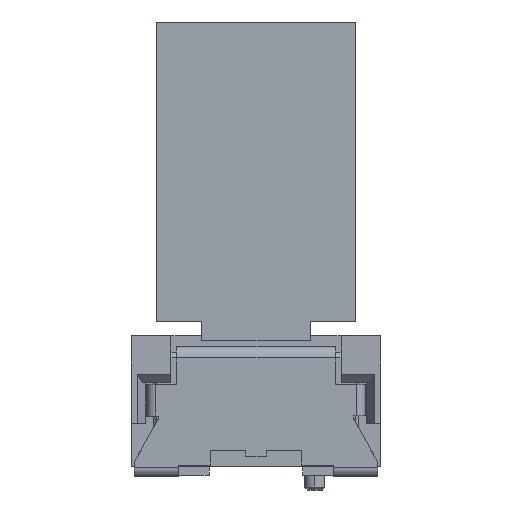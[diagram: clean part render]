
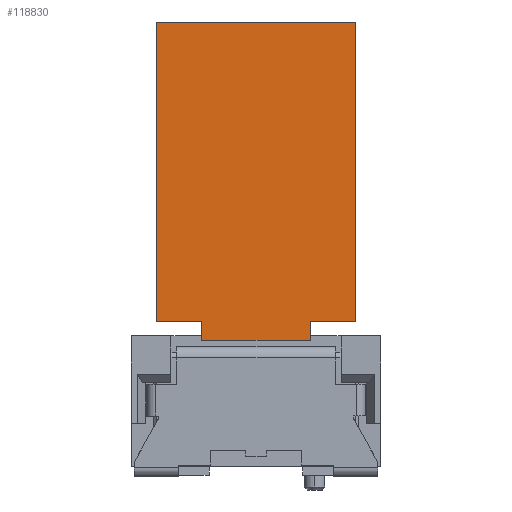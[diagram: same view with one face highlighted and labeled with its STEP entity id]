
A CAD part, left-side view. The second image highlights one B-rep face of the part: STEP entity #118830.
In plain terms, the highlighted planar face has unit normal (-1, 0, 0).
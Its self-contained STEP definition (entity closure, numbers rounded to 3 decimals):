
#41360=CARTESIAN_POINT('',(-11.054,29.1,13.848));
#41370=DIRECTION('',(0.,0.,1.));
#41380=VECTOR('',#41370,1.);
#41390=LINE('',#41360,#41380);
#41400=CARTESIAN_POINT('',(-11.054,29.1,12.9));
#41410=VERTEX_POINT('',#41400);
#41420=CARTESIAN_POINT('',(-11.054,29.1,13.55));
#41430=VERTEX_POINT('',#41420);
#41440=EDGE_CURVE('',#41410,#41430,#41390,.T.);
#41830=CARTESIAN_POINT('',(-11.054,30.22,12.9));
#41840=DIRECTION('',(0.,-1.,0.));
#41850=VECTOR('',#41840,1.);
#41860=LINE('',#41830,#41850);
#41870=CARTESIAN_POINT('',(-11.054,25.4,12.9));
#41880=VERTEX_POINT('',#41870);
#41890=EDGE_CURVE('',#41410,#41880,#41860,.T.);
#118280=CARTESIAN_POINT('',(-11.054,23.85,23.75));
#118290=DIRECTION('',(-1.,0.,0.));
#118300=DIRECTION('',(0.,0.,1.));
#118310=AXIS2_PLACEMENT_3D('',#118280,#118290,#118300);
#118320=PLANE('',#118310);
#118330=ORIENTED_EDGE('',*,*,#41890,.T.);
#118340=ORIENTED_EDGE('',*,*,#41440,.F.);
#118350=CARTESIAN_POINT('',(-11.054,30.22,13.55));
#118360=DIRECTION('',(0.,1.,0.));
#118370=VECTOR('',#118360,1.);
#118380=LINE('',#118350,#118370);
#118390=CARTESIAN_POINT('',(-11.054,30.65,13.55));
#118400=VERTEX_POINT('',#118390);
#118410=EDGE_CURVE('',#41430,#118400,#118380,.T.);
#118420=ORIENTED_EDGE('',*,*,#118410,.F.);
#118430=CARTESIAN_POINT('',(-11.054,30.65,11.165));
#118440=DIRECTION('',(0.,0.,1.));
#118450=VECTOR('',#118440,1.);
#118460=LINE('',#118430,#118450);
#118470=CARTESIAN_POINT('',(-11.054,30.65,23.75));
#118480=VERTEX_POINT('',#118470);
#118490=EDGE_CURVE('',#118400,#118480,#118460,.T.);
#118500=ORIENTED_EDGE('',*,*,#118490,.F.);
#118510=CARTESIAN_POINT('',(-11.054,30.22,23.75));
#118520=DIRECTION('',(0.,-1.,0.));
#118530=VECTOR('',#118520,1.);
#118540=LINE('',#118510,#118530);
#118550=CARTESIAN_POINT('',(-11.054,23.85,23.75));
#118560=VERTEX_POINT('',#118550);
#118570=EDGE_CURVE('',#118480,#118560,#118540,.T.);
#118580=ORIENTED_EDGE('',*,*,#118570,.F.);
#118590=CARTESIAN_POINT('',(-11.054,23.85,11.165));
#118600=DIRECTION('',(0.,0.,-1.));
#118610=VECTOR('',#118600,1.);
#118620=LINE('',#118590,#118610);
#118630=CARTESIAN_POINT('',(-11.054,23.85,13.55));
#118640=VERTEX_POINT('',#118630);
#118650=EDGE_CURVE('',#118560,#118640,#118620,.T.);
#118660=ORIENTED_EDGE('',*,*,#118650,.F.);
#118670=CARTESIAN_POINT('',(-11.054,30.22,13.55));
#118680=DIRECTION('',(0.,1.,0.));
#118690=VECTOR('',#118680,1.);
#118700=LINE('',#118670,#118690);
#118710=CARTESIAN_POINT('',(-11.054,25.4,13.55));
#118720=VERTEX_POINT('',#118710);
#118730=EDGE_CURVE('',#118640,#118720,#118700,.T.);
#118740=ORIENTED_EDGE('',*,*,#118730,.F.);
#118750=CARTESIAN_POINT('',(-11.054,25.4,13.848));
#118760=DIRECTION('',(0.,0.,1.));
#118770=VECTOR('',#118760,1.);
#118780=LINE('',#118750,#118770);
#118790=EDGE_CURVE('',#41880,#118720,#118780,.T.);
#118800=ORIENTED_EDGE('',*,*,#118790,.T.);
#118810=EDGE_LOOP('',(#118800,#118740,#118660,#118580,#118500,#118420,
#118340,#118330));
#118820=FACE_OUTER_BOUND('',#118810,.T.);
#118830=ADVANCED_FACE('',(#118820),#118320,.T.);
